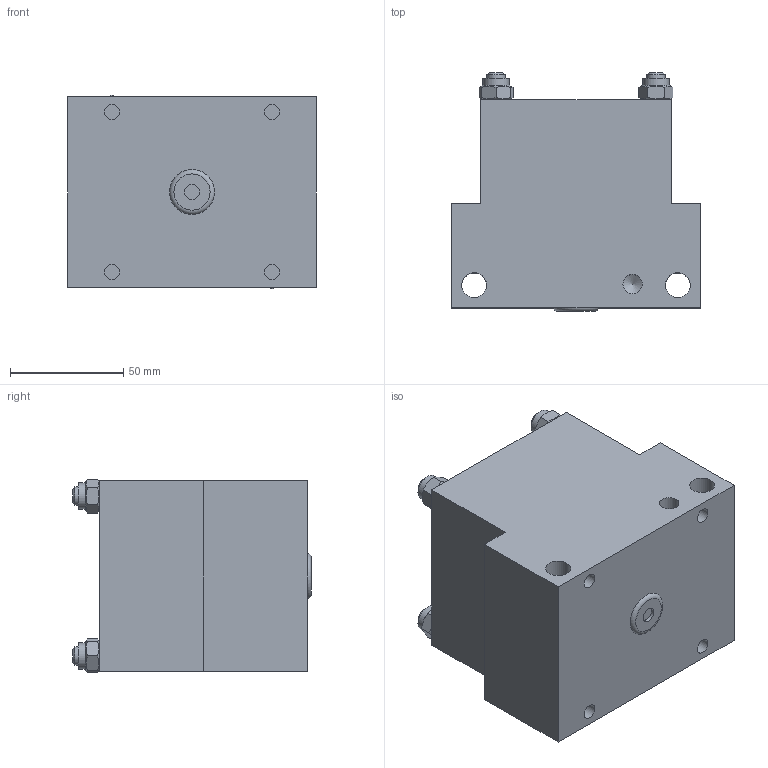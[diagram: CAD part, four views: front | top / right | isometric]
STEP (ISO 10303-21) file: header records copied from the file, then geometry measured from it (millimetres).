
FILE_DESCRIPTION((''),'2;1');
FILE_NAME('C:\VaultWork\Zeichnungen\Maßblätter\Multizylinder\M 75\M75-30\M01794-4-0 Maßblatt Multizylinder M75-2-20.stp','2013-06-19T16:42:25',('Sergeew'),(''),'Autodesk Inventor 2012','Autodesk Inventor 2012','');
FILE_SCHEMA(('AUTOMOTIVE_DESIGN { 1 0 10303 214 1 1 1 1 }'));
Length unit declared in the file: millimetre
Products named in the file (1): M01794-4-0 Maßblatt Multizylinder M75-2-20
Bounding box: 110 x 105.5 x 85.72 mm (x, y, z)
Volume: 730785.8 mm3; surface area: 65360.1 mm2
Topology: 1 solids, 5 shells, 108 faces, 235 edges, 156 vertices
Faces by surface type: plane 61, cylinder 25, cone 21, torus 1
Full cylindrical faces by diameter (mm): 6.647 x5, 8 x8, 8.566 x2, 9 x4, 11 x2, 11.6 x4
Entity records: 2577 total; most frequent: CARTESIAN_POINT 501, DIRECTION 402, ORIENTED_EDGE 328, EDGE_LOOP 178, AXIS2_PLACEMENT_3D 177, EDGE_CURVE 164, VERTEX_POINT 132, FACE_OUTER_BOUND 108
